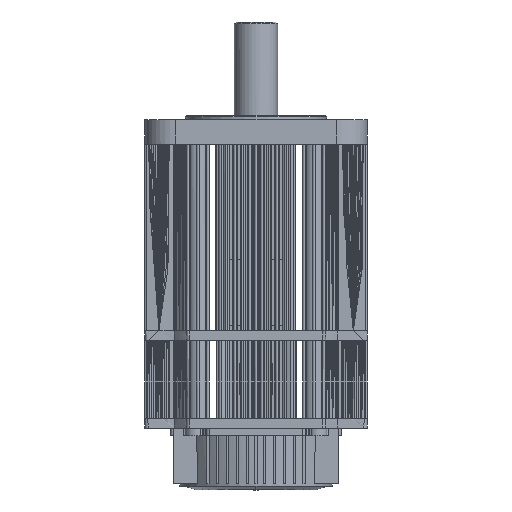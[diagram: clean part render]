
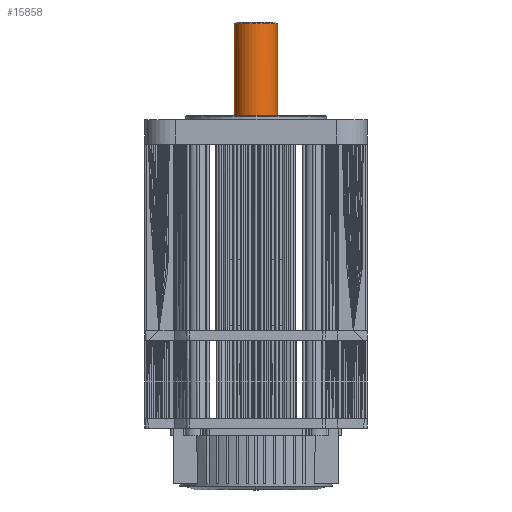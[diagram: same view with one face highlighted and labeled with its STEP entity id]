
A CAD part, front view. The second image highlights one B-rep face of the part: STEP entity #15858.
In plain terms, the highlighted cylindrical face has radius 17.5 mm (diameter 35 mm), a partial arc.
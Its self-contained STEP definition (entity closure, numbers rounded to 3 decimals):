
#342 = CARTESIAN_POINT ( 'NONE',  ( 15.728, -7.759, 23.2 ) ) ;
#771 = CARTESIAN_POINT ( 'NONE',  ( 0., -17.5, 23.2 ) ) ;
#982 = CARTESIAN_POINT ( 'NONE',  ( 17.388, -2.287, 23.2 ) ) ;
#2566 = ORIENTED_EDGE ( 'NONE', *, *, #56504, .F. ) ;
#3794 = CARTESIAN_POINT ( 'NONE',  ( -5.635, -16.608, 23.2 ) ) ;
#4000 = CARTESIAN_POINT ( 'NONE',  ( -10.678, -13.912, 23.2 ) ) ;
#5315 = CYLINDRICAL_SURFACE ( 'NONE', #64755, 17.5 ) ;
#5353 = CARTESIAN_POINT ( 'NONE',  ( 5.635, -16.608, 23.2 ) ) ;
#5454 = ORIENTED_EDGE ( 'NONE', *, *, #17206, .F. ) ;
#6651 = DIRECTION ( 'NONE',  ( 0., -1., 0. ) ) ;
#6809 = VERTEX_POINT ( 'NONE', #53161 ) ;
#7068 = CARTESIAN_POINT ( 'NONE',  ( 0., 0., 97.5 ) ) ;
#10126 = CARTESIAN_POINT ( 'NONE',  ( 10.678, -13.912, 23.2 ) ) ;
#10826 = DIRECTION ( 'NONE',  ( 0., 0., -1. ) ) ;
#12304 = VERTEX_POINT ( 'NONE', #56659 ) ;
#13782 = CARTESIAN_POINT ( 'NONE',  ( -13.187, -11.562, 23.2 ) ) ;
#15858 = ADVANCED_FACE ( 'NONE', ( #24824 ), #5315, .T. ) ;
#16309 = VERTEX_POINT ( 'NONE', #60991 ) ;
#16506 = AXIS2_PLACEMENT_3D ( 'NONE', #60851, #46397, #6651 ) ;
#17206 = EDGE_CURVE ( 'NONE', #43691, #43268, #43400, .T. ) ;
#17301 = DIRECTION ( 'NONE',  ( 0., 0., -1. ) ) ;
#17752 = VECTOR ( 'NONE', #10826, 1000. ) ;
#18783 = CARTESIAN_POINT ( 'NONE',  ( -15.189, -8.767, 23.2 ) ) ;
#20144 = CARTESIAN_POINT ( 'NONE',  ( 7.759, -15.728, 23.2 ) ) ;
#20413 = CIRCLE ( 'NONE', #16506, 17.5 ) ;
#20575 = CARTESIAN_POINT ( 'NONE',  ( 17.5, -1.149, 23.2 ) ) ;
#20793 = CARTESIAN_POINT ( 'NONE',  ( 8.767, -15.189, 23.2 ) ) ;
#20978 = EDGE_CURVE ( 'NONE', #16309, #43691, #52856, .T. ) ;
#23628 = CARTESIAN_POINT ( 'NONE',  ( -1.149, -17.5, 23.2 ) ) ;
#23846 = CARTESIAN_POINT ( 'NONE',  ( -17.388, -2.287, 23.2 ) ) ;
#23917 = ORIENTED_EDGE ( 'NONE', *, *, #26128, .F. ) ;
#24048 = B_SPLINE_CURVE_WITH_KNOTS ( 'NONE', 3,
 ( #54263, #23628, #39343, #28627, #3794, #63671, #24062, #4000, #24269, #13782, #48795, #18783, #44165, #53846, #63893, #23846, #39118, #33886 ),
 .UNSPECIFIED., .F., .F.,
 ( 4, 2, 2, 2, 2, 2, 2, 2, 4 ),
 ( 0., 0.062, 0.125, 0.187, 0.25, 0.312, 0.375, 0.438, 0.5 ),
 .UNSPECIFIED. ) ;
#24062 = CARTESIAN_POINT ( 'NONE',  ( -8.767, -15.189, 23.2 ) ) ;
#24269 = CARTESIAN_POINT ( 'NONE',  ( -11.562, -13.187, 23.2 ) ) ;
#24824 = FACE_OUTER_BOUND ( 'NONE', #39571, .T. ) ;
#25461 = ORIENTED_EDGE ( 'NONE', *, *, #38450, .T. ) ;
#26128 = EDGE_CURVE ( 'NONE', #43268, #12304, #24048, .T. ) ;
#28627 = CARTESIAN_POINT ( 'NONE',  ( -4.541, -16.94, 23.2 ) ) ;
#31494 = DIRECTION ( 'NONE',  ( -1., 0., 0. ) ) ;
#32173 = CARTESIAN_POINT ( 'NONE',  ( 17.5, 0., 97.5 ) ) ;
#33886 = CARTESIAN_POINT ( 'NONE',  ( -17.5, 0., 23.2 ) ) ;
#35013 = CARTESIAN_POINT ( 'NONE',  ( 17.5, 0., 23.2 ) ) ;
#35230 = CARTESIAN_POINT ( 'NONE',  ( 2.287, -17.388, 23.2 ) ) ;
#36589 = LINE ( 'NONE', #45377, #17752 ) ;
#38187 = CARTESIAN_POINT ( 'NONE',  ( 17.5, 0., 23.2 ) ) ;
#38450 = EDGE_CURVE ( 'NONE', #6809, #12304, #36589, .T. ) ;
#39118 = CARTESIAN_POINT ( 'NONE',  ( -17.5, -1.149, 23.2 ) ) ;
#39343 = CARTESIAN_POINT ( 'NONE',  ( -2.287, -17.388, 23.2 ) ) ;
#39571 = EDGE_LOOP ( 'NONE', ( #44028, #2566, #25461, #23917, #5454 ) ) ;
#40671 = CARTESIAN_POINT ( 'NONE',  ( 11.562, -13.187, 23.2 ) ) ;
#43268 = VERTEX_POINT ( 'NONE', #45700 ) ;
#43400 = B_SPLINE_CURVE_WITH_KNOTS ( 'NONE', 3,
 ( #35013, #20575, #982, #60212, #50144, #342, #50579, #45742, #60648, #40671, #10126, #20793, #20144, #5353, #55612, #35230, #55185, #771 ),
 .UNSPECIFIED., .F., .F.,
 ( 4, 2, 2, 2, 2, 2, 2, 2, 4 ),
 ( 0.5, 0.563, 0.625, 0.688, 0.75, 0.813, 0.875, 0.938, 1. ),
 .UNSPECIFIED. ) ;
#43691 = VERTEX_POINT ( 'NONE', #38187 ) ;
#44028 = ORIENTED_EDGE ( 'NONE', *, *, #20978, .F. ) ;
#44165 = CARTESIAN_POINT ( 'NONE',  ( -15.728, -7.759, 23.2 ) ) ;
#45377 = CARTESIAN_POINT ( 'NONE',  ( -17.5, 0., 97.5 ) ) ;
#45700 = CARTESIAN_POINT ( 'NONE',  ( 0., -17.5, 23.2 ) ) ;
#45742 = CARTESIAN_POINT ( 'NONE',  ( 13.912, -10.678, 23.2 ) ) ;
#46397 = DIRECTION ( 'NONE',  ( 0., 0., 1. ) ) ;
#47034 = DIRECTION ( 'NONE',  ( 0., 0., -1. ) ) ;
#48795 = CARTESIAN_POINT ( 'NONE',  ( -13.912, -10.678, 23.2 ) ) ;
#50144 = CARTESIAN_POINT ( 'NONE',  ( 16.608, -5.635, 23.2 ) ) ;
#50579 = CARTESIAN_POINT ( 'NONE',  ( 15.189, -8.767, 23.2 ) ) ;
#52856 = LINE ( 'NONE', #32173, #59879 ) ;
#53161 = CARTESIAN_POINT ( 'NONE',  ( -17.5, 0., 97.5 ) ) ;
#53846 = CARTESIAN_POINT ( 'NONE',  ( -16.608, -5.635, 23.2 ) ) ;
#54263 = CARTESIAN_POINT ( 'NONE',  ( 0., -17.5, 23.2 ) ) ;
#55185 = CARTESIAN_POINT ( 'NONE',  ( 1.149, -17.5, 23.2 ) ) ;
#55612 = CARTESIAN_POINT ( 'NONE',  ( 4.541, -16.94, 23.2 ) ) ;
#56504 = EDGE_CURVE ( 'NONE', #6809, #16309, #20413, .T. ) ;
#56659 = CARTESIAN_POINT ( 'NONE',  ( -17.5, 0., 23.2 ) ) ;
#59879 = VECTOR ( 'NONE', #17301, 1000. ) ;
#60212 = CARTESIAN_POINT ( 'NONE',  ( 16.94, -4.541, 23.2 ) ) ;
#60648 = CARTESIAN_POINT ( 'NONE',  ( 13.187, -11.562, 23.2 ) ) ;
#60851 = CARTESIAN_POINT ( 'NONE',  ( 0., 0., 97.5 ) ) ;
#60991 = CARTESIAN_POINT ( 'NONE',  ( 17.5, 0., 97.5 ) ) ;
#63671 = CARTESIAN_POINT ( 'NONE',  ( -7.759, -15.728, 23.2 ) ) ;
#63893 = CARTESIAN_POINT ( 'NONE',  ( -16.94, -4.541, 23.2 ) ) ;
#64755 = AXIS2_PLACEMENT_3D ( 'NONE', #7068, #47034, #31494 ) ;
